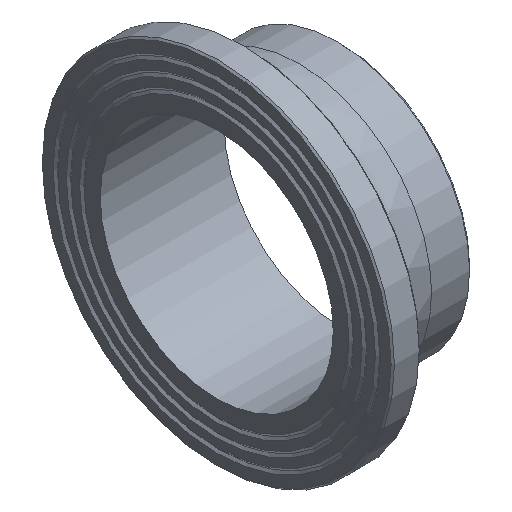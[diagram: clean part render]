
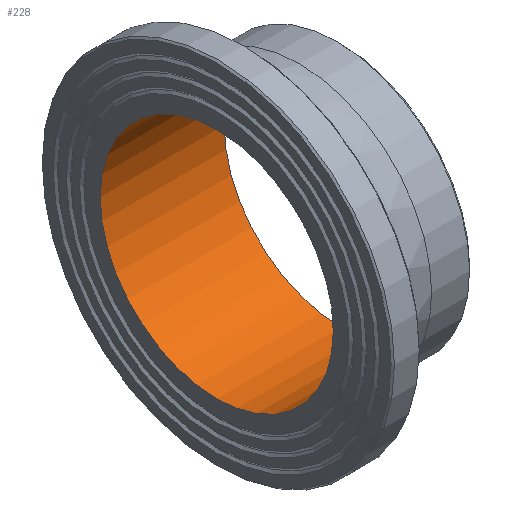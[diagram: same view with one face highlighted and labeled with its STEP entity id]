
A CAD part, isometric view. The second image highlights one B-rep face of the part: STEP entity #228.
In plain terms, the highlighted cylindrical face has radius 70.5 mm (diameter 141 mm), a full revolution.
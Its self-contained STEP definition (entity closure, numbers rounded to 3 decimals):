
#33=CYLINDRICAL_SURFACE('',#274,70.5);
#50=ORIENTED_EDGE('',*,*,#79,.F.);
#51=ORIENTED_EDGE('',*,*,#76,.T.);
#76=EDGE_CURVE('',#96,#96,#116,.T.);
#79=EDGE_CURVE('',#99,#99,#119,.T.);
#96=VERTEX_POINT('',#383);
#99=VERTEX_POINT('',#390);
#116=CIRCLE('',#257,70.5);
#119=CIRCLE('',#261,70.5);
#150=EDGE_LOOP('',(#50));
#151=EDGE_LOOP('',(#51));
#190=FACE_BOUND('',#150,.T.);
#191=FACE_BOUND('',#151,.T.);
#228=ADVANCED_FACE('',(#190,#191),#33,.F.);
#257=AXIS2_PLACEMENT_3D('',#382,#303,#304);
#261=AXIS2_PLACEMENT_3D('',#389,#311,#312);
#274=AXIS2_PLACEMENT_3D('',#410,#337,#338);
#303=DIRECTION('',(-1.,0.,0.));
#304=DIRECTION('',(0.,0.,1.));
#311=DIRECTION('',(-1.,0.,0.));
#312=DIRECTION('',(0.,0.,1.));
#337=DIRECTION('',(-1.,0.,0.));
#338=DIRECTION('',(0.,0.,1.));
#382=CARTESIAN_POINT('',(0.,0.,0.));
#383=CARTESIAN_POINT('',(0.,0.,70.5));
#389=CARTESIAN_POINT('',(75.,0.,0.));
#390=CARTESIAN_POINT('',(75.,0.,70.5));
#410=CARTESIAN_POINT('',(60.,0.,0.));
